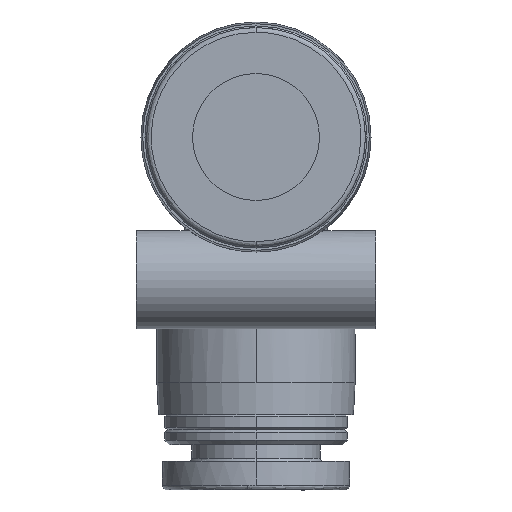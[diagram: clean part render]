
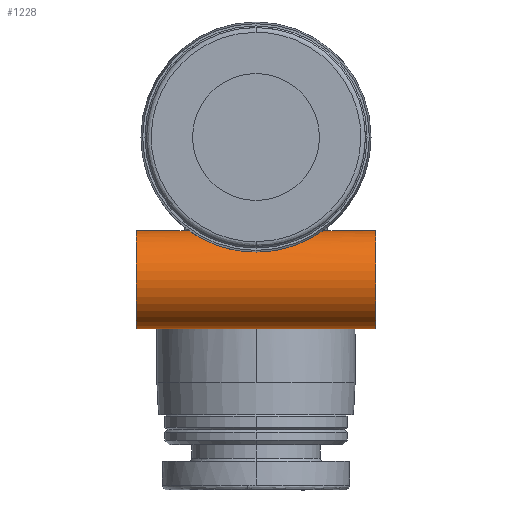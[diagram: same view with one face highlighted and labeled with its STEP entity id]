
A CAD part, left-side view. The second image highlights one B-rep face of the part: STEP entity #1228.
In plain terms, the highlighted cylindrical face has radius 3.1 mm (diameter 6.2 mm), a partial arc.
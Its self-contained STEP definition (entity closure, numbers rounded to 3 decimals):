
#20 = CARTESIAN_POINT ( 'NONE',  ( -9.588, -4.137, -5.954 ) ) ;
#41 = CARTESIAN_POINT ( 'NONE',  ( -9.475, -4.165, -5.934 ) ) ;
#51 = CARTESIAN_POINT ( 'NONE',  ( -9.242, -4.203, -5.907 ) ) ;
#58 = CARTESIAN_POINT ( 'NONE',  ( -9.121, -4.213, -5.9 ) ) ;
#83 = CARTESIAN_POINT ( 'NONE',  ( -9., -4.213, -5.9 ) ) ;
#92 = VECTOR ( 'NONE', #507, 1000. ) ;
#314 = CARTESIAN_POINT ( 'NONE',  ( -10.635, 3.484, -6.361 ) ) ;
#341 = LINE ( 'NONE', #5242, #2552 ) ;
#365 = CARTESIAN_POINT ( 'NONE',  ( -9., -7.55, -12.1 ) ) ;
#448 = EDGE_CURVE ( 'NONE', #2653, #2762, #579, .T. ) ;
#507 = DIRECTION ( 'NONE',  ( 0., 1., 0. ) ) ;
#579 = LINE ( 'NONE', #4298, #727 ) ;
#703 = DIRECTION ( 'NONE',  ( 0., -1., 0. ) ) ;
#727 = VECTOR ( 'NONE', #4279, 1000. ) ;
#747 = CARTESIAN_POINT ( 'NONE',  ( -9., 4.213, -5.9 ) ) ;
#768 = EDGE_LOOP ( 'NONE', ( #3839, #4521, #3099, #1923, #3395, #4175, #4655 ) ) ;
#779 = CARTESIAN_POINT ( 'NONE',  ( -11.006, 2.933, -6.634 ) ) ;
#807 = CARTESIAN_POINT ( 'NONE',  ( -9., 4.213, -5.9 ) ) ;
#1092 = AXIS2_PLACEMENT_3D ( 'NONE', #4550, #4465, #4611 ) ;
#1226 = CARTESIAN_POINT ( 'NONE',  ( -11.259, 2.312, -6.875 ) ) ;
#1228 = ADVANCED_FACE ( '63', ( #3807 ), #4814, .T. ) ;
#1539 = AXIS2_PLACEMENT_3D ( 'NONE', #2856, #2869, #2898 ) ;
#1613 = EDGE_CURVE ( 'NONE', #2946, #4241, #2432, .T. ) ;
#1640 = CARTESIAN_POINT ( 'NONE',  ( -9.242, 4.213, -5.9 ) ) ;
#1654 = B_SPLINE_CURVE_WITH_KNOTS ( 'NONE', 3,
 ( #3213, #2551, #2407, #2442, #2453, #2464, #2469, #2496, #2500, #2507, #2510, #2513, #2522, #2532, #3074, #2733, #3465, #20, #41, #51, #58, #83 ),
 .UNSPECIFIED., .F., .F.,
 ( 4, 2, 2, 2, 2, 2, 2, 2, 2, 2, 4 ),
 ( 0.006, 0.007, 0.008, 0.009, 0.009, 0.01, 0.01, 0.01, 0.011, 0.011, 0.011 ),
 .UNSPECIFIED. ) ;
#1663 = CARTESIAN_POINT ( 'NONE',  ( -11.423, 1.643, -7.065 ) ) ;
#1873 = CIRCLE ( 'NONE', #1539, 3.1 ) ;
#1877 = CARTESIAN_POINT ( 'NONE',  ( -11.559, 0., -7.25 ) ) ;
#1923 = ORIENTED_EDGE ( 'NONE', *, *, #2161, .F. ) ;
#2102 = CARTESIAN_POINT ( 'NONE',  ( -11.518, 0.951, -7.191 ) ) ;
#2161 = EDGE_CURVE ( 'NONE', #2865, #2762, #1654, .T. ) ;
#2372 = EDGE_CURVE ( 'NONE', #2946, #2653, #1873, .T. ) ;
#2407 = CARTESIAN_POINT ( 'NONE',  ( -11.529, -0.948, -7.203 ) ) ;
#2432 = LINE ( 'NONE', #365, #92 ) ;
#2442 = CARTESIAN_POINT ( 'NONE',  ( -11.424, -1.638, -7.066 ) ) ;
#2453 = CARTESIAN_POINT ( 'NONE',  ( -11.378, -1.867, -7.009 ) ) ;
#2464 = CARTESIAN_POINT ( 'NONE',  ( -11.26, -2.31, -6.876 ) ) ;
#2469 = CARTESIAN_POINT ( 'NONE',  ( -11.188, -2.523, -6.8 ) ) ;
#2496 = CARTESIAN_POINT ( 'NONE',  ( -11.008, -2.931, -6.635 ) ) ;
#2500 = CARTESIAN_POINT ( 'NONE',  ( -10.898, -3.127, -6.544 ) ) ;
#2507 = CARTESIAN_POINT ( 'NONE',  ( -10.702, -3.393, -6.408 ) ) ;
#2510 = CARTESIAN_POINT ( 'NONE',  ( -10.631, -3.477, -6.362 ) ) ;
#2513 = CARTESIAN_POINT ( 'NONE',  ( -10.477, -3.636, -6.273 ) ) ;
#2514 = CARTESIAN_POINT ( 'NONE',  ( -9.922, 4.024, -6.031 ) ) ;
#2522 = CARTESIAN_POINT ( 'NONE',  ( -10.393, -3.711, -6.229 ) ) ;
#2532 = CARTESIAN_POINT ( 'NONE',  ( -10.214, -3.847, -6.146 ) ) ;
#2533 = CARTESIAN_POINT ( 'NONE',  ( -11.559, 0.239, -7.25 ) ) ;
#2551 = CARTESIAN_POINT ( 'NONE',  ( -11.559, -0.479, -7.25 ) ) ;
#2552 = VECTOR ( 'NONE', #5224, 1000. ) ;
#2653 = VERTEX_POINT ( 'NONE', #5331 ) ;
#2733 = CARTESIAN_POINT ( 'NONE',  ( -9.918, -4.015, -6.037 ) ) ;
#2762 = VERTEX_POINT ( 'NONE', #3336 ) ;
#2856 = CARTESIAN_POINT ( 'NONE',  ( -9., -7.55, -9. ) ) ;
#2865 = VERTEX_POINT ( 'NONE', #1877 ) ;
#2869 = DIRECTION ( 'NONE',  ( 0., 1., 0. ) ) ;
#2898 = DIRECTION ( 'NONE',  ( 0., 0., 1. ) ) ;
#2946 = VERTEX_POINT ( 'NONE', #4966 ) ;
#2949 = CARTESIAN_POINT ( 'NONE',  ( -10.483, 3.643, -6.27 ) ) ;
#3074 = CARTESIAN_POINT ( 'NONE',  ( -10.119, -3.908, -6.107 ) ) ;
#3099 = ORIENTED_EDGE ( 'NONE', *, *, #448, .T. ) ;
#3142 = EDGE_CURVE ( 'NONE', #4305, #4241, #3788, .T. ) ;
#3213 = CARTESIAN_POINT ( 'NONE',  ( -11.559, 0., -7.25 ) ) ;
#3336 = CARTESIAN_POINT ( 'NONE',  ( -9., -4.213, -5.9 ) ) ;
#3345 = DIRECTION ( 'NONE',  ( 0., 0., 1. ) ) ;
#3395 = ORIENTED_EDGE ( 'NONE', *, *, #4924, .F. ) ;
#3410 = CARTESIAN_POINT ( 'NONE',  ( -10.898, 3.128, -6.544 ) ) ;
#3465 = CARTESIAN_POINT ( 'NONE',  ( -9.81, -4.062, -6.005 ) ) ;
#3489 = EDGE_CURVE ( 'NONE', #5421, #4305, #341, .T. ) ;
#3728 = CARTESIAN_POINT ( 'NONE',  ( -9., 7.55, -12.1 ) ) ;
#3762 = CARTESIAN_POINT ( 'NONE',  ( -9., 7.55, -9. ) ) ;
#3788 = CIRCLE ( 'NONE', #4526, 3.1 ) ;
#3807 = FACE_OUTER_BOUND ( 'NONE', #768, .T. ) ;
#3835 = CARTESIAN_POINT ( 'NONE',  ( -11.186, 2.527, -6.799 ) ) ;
#3839 = ORIENTED_EDGE ( 'NONE', *, *, #1613, .F. ) ;
#4175 = ORIENTED_EDGE ( 'NONE', *, *, #3489, .T. ) ;
#4241 = VERTEX_POINT ( 'NONE', #3728 ) ;
#4265 = CARTESIAN_POINT ( 'NONE',  ( -11.378, 1.868, -7.009 ) ) ;
#4279 = DIRECTION ( 'NONE',  ( 0., 1., 0. ) ) ;
#4298 = CARTESIAN_POINT ( 'NONE',  ( -9., -7.55, -5.9 ) ) ;
#4305 = VERTEX_POINT ( 'NONE', #4327 ) ;
#4327 = CARTESIAN_POINT ( 'NONE',  ( -9., 7.55, -5.9 ) ) ;
#4465 = DIRECTION ( 'NONE',  ( 0., 1., 0. ) ) ;
#4521 = ORIENTED_EDGE ( 'NONE', *, *, #2372, .T. ) ;
#4526 = AXIS2_PLACEMENT_3D ( 'NONE', #3762, #703, #3345 ) ;
#4550 = CARTESIAN_POINT ( 'NONE',  ( -9., -7.55, -9. ) ) ;
#4611 = DIRECTION ( 'NONE',  ( 0., 0., 1. ) ) ;
#4655 = ORIENTED_EDGE ( 'NONE', *, *, #3142, .T. ) ;
#4693 = CARTESIAN_POINT ( 'NONE',  ( -11.493, 1.184, -7.156 ) ) ;
#4814 = CYLINDRICAL_SURFACE ( 'NONE', #1092, 3.1 ) ;
#4924 = EDGE_CURVE ( 'NONE', #5421, #2865, #5341, .T. ) ;
#4966 = CARTESIAN_POINT ( 'NONE',  ( -9., -7.55, -12.1 ) ) ;
#5118 = CARTESIAN_POINT ( 'NONE',  ( -9.476, 4.175, -5.928 ) ) ;
#5142 = CARTESIAN_POINT ( 'NONE',  ( -11.551, 0.479, -7.238 ) ) ;
#5224 = DIRECTION ( 'NONE',  ( 0., 1., 0. ) ) ;
#5242 = CARTESIAN_POINT ( 'NONE',  ( -9., -7.55, -5.9 ) ) ;
#5331 = CARTESIAN_POINT ( 'NONE',  ( -9., -7.55, -5.9 ) ) ;
#5341 = B_SPLINE_CURVE_WITH_KNOTS ( 'NONE', 3,
 ( #747, #1640, #5118, #2514, #5561, #2949, #314, #3410, #779, #3835, #1226, #4265, #1663, #4693, #2102, #5142, #2533, #5577 ),
 .UNSPECIFIED., .F., .F.,
 ( 4, 2, 2, 2, 2, 2, 2, 2, 4 ),
 ( 0., 0.001, 0.001, 0.002, 0.003, 0.004, 0.004, 0.005, 0.006 ),
 .UNSPECIFIED. ) ;
#5421 = VERTEX_POINT ( 'NONE', #807 ) ;
#5561 = CARTESIAN_POINT ( 'NONE',  ( -10.124, 3.915, -6.104 ) ) ;
#5577 = CARTESIAN_POINT ( 'NONE',  ( -11.559, 0., -7.25 ) ) ;
